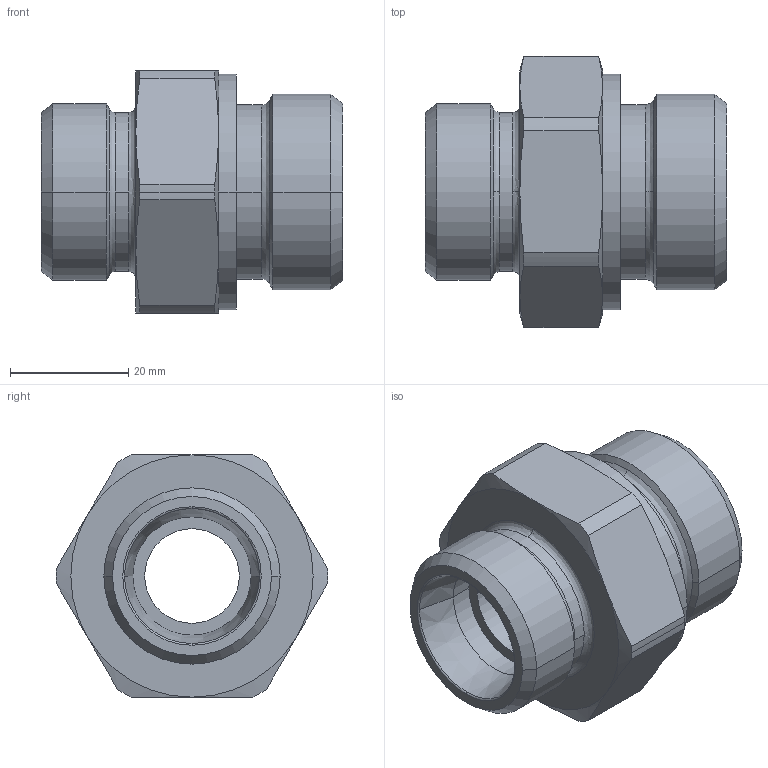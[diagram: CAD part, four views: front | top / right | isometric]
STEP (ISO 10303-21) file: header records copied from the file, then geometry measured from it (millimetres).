
FILE_DESCRIPTION((''),'2;1');
FILE_NAME('100546.stp','2007-10-30T14:23:20',(''),(''),'AutoCAD STEP 2000i','AutoCAD 2000i',', , ');
FILE_SCHEMA(('CONFIG_CONTROL_DESIGN'));
Length unit declared in the file: millimetre
Products named in the file (2): 100546.0; CHIAVE SMUSSATA#0
Assembly tree (1 placements, depth 2):
  100546.0
    CHIAVE SMUSSATA#0
Bounding box: 51 x 45.9 x 41 mm (x, y, z)
Volume: 36295.7 mm3; surface area: 11109.5 mm2
Topology: 1 solids, 1 shells, 75 faces, 185 edges, 117 vertices
Faces by surface type: cylinder 24, cone 24, plane 13, bspline 12, torus 2
Entity records: 2835 total; most frequent: CARTESIAN_POINT 955, DIRECTION 410, ORIENTED_EDGE 370, EDGE_CURVE 185, AXIS2_PLACEMENT_3D 184, CIRCLE 119, VERTEX_POINT 117, EDGE_LOOP 82
